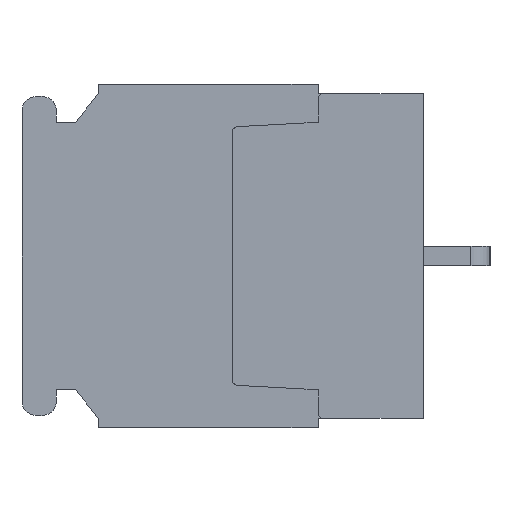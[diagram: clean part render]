
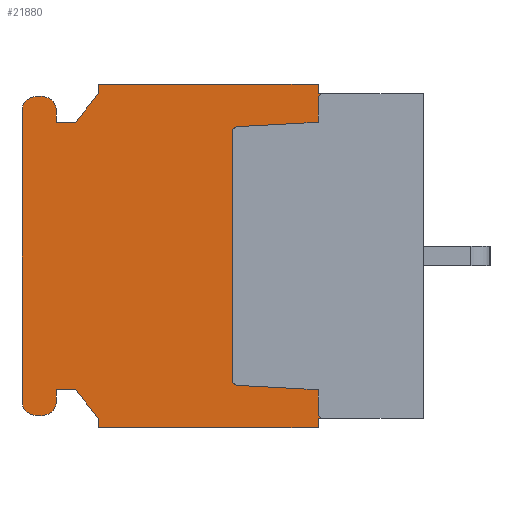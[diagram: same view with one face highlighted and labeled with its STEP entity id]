
A CAD part, left-side view. The second image highlights one B-rep face of the part: STEP entity #21880.
In plain terms, the highlighted planar face has unit normal (-1, 0, 0).
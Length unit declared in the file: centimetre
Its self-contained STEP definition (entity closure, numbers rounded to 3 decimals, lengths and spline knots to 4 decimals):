
#684=VECTOR('',#22796,1.);
#770=VECTOR('',#22884,1.);
#1838=VECTOR('',#25641,1.);
#1840=VECTOR('',#25644,1.);
#1842=VECTOR('',#25647,1.);
#1843=VECTOR('',#25649,1.);
#1845=VECTOR('',#25652,1.);
#1847=VECTOR('',#25655,1.);
#1849=VECTOR('',#25658,1.);
#1851=VECTOR('',#25661,1.);
#1853=VECTOR('',#25664,1.);
#1856=VECTOR('',#25672,1.);
#1859=VECTOR('',#25680,1.);
#1862=VECTOR('',#25688,1.);
#1865=VECTOR('',#25696,1.);
#1867=VECTOR('',#25699,1.);
#1869=VECTOR('',#25702,1.);
#2361=VECTOR('',#26440,1.);
#2362=VECTOR('',#26441,1.);
#2363=VECTOR('',#26444,1.);
#2364=VECTOR('',#26447,1.);
#2365=VECTOR('',#26448,1.);
#2896=LINE('',#27696,#684);
#2982=LINE('',#27867,#770);
#4050=LINE('',#31378,#1838);
#4052=LINE('',#31382,#1840);
#4054=LINE('',#31386,#1842);
#4055=LINE('',#31388,#1843);
#4057=LINE('',#31392,#1845);
#4059=LINE('',#31396,#1847);
#4061=LINE('',#31400,#1849);
#4063=LINE('',#31404,#1851);
#4065=LINE('',#31408,#1853);
#4068=LINE('',#31416,#1856);
#4071=LINE('',#31424,#1859);
#4074=LINE('',#31432,#1862);
#4077=LINE('',#31440,#1865);
#4079=LINE('',#31444,#1867);
#4081=LINE('',#31448,#1869);
#4573=LINE('',#33175,#2361);
#4574=LINE('',#33177,#2362);
#4575=LINE('',#33181,#2363);
#4576=LINE('',#33185,#2364);
#4577=LINE('',#33187,#2365);
#5658=PLANE('',#36264);
#6252=CIRCLE('',#36045,0.075);
#6253=CIRCLE('',#36048,0.075);
#6254=CIRCLE('',#36051,0.075);
#6255=CIRCLE('',#36054,0.075);
#6278=CIRCLE('',#36265,0.03);
#6279=CIRCLE('',#36266,0.03);
#6280=CIRCLE('',#36267,0.03);
#6281=CIRCLE('',#36268,0.03);
#6557=VERTEX_POINT('',#27695);
#6558=VERTEX_POINT('',#27697);
#6640=VERTEX_POINT('',#27866);
#6641=VERTEX_POINT('',#27868);
#7650=VERTEX_POINT('',#31377);
#7651=VERTEX_POINT('',#31379);
#7652=VERTEX_POINT('',#31383);
#7653=VERTEX_POINT('',#31389);
#7654=VERTEX_POINT('',#31393);
#7655=VERTEX_POINT('',#31397);
#7656=VERTEX_POINT('',#31401);
#7657=VERTEX_POINT('',#31405);
#7658=VERTEX_POINT('',#31409);
#7659=VERTEX_POINT('',#31413);
#7660=VERTEX_POINT('',#31417);
#7661=VERTEX_POINT('',#31421);
#7662=VERTEX_POINT('',#31425);
#7663=VERTEX_POINT('',#31429);
#7664=VERTEX_POINT('',#31433);
#7665=VERTEX_POINT('',#31437);
#7666=VERTEX_POINT('',#31441);
#7667=VERTEX_POINT('',#31445);
#8070=VERTEX_POINT('',#33174);
#8071=VERTEX_POINT('',#33176);
#8072=VERTEX_POINT('',#33178);
#8073=VERTEX_POINT('',#33180);
#8074=VERTEX_POINT('',#33182);
#8075=VERTEX_POINT('',#33184);
#8076=VERTEX_POINT('',#33186);
#8077=VERTEX_POINT('',#33188);
#8854=EDGE_CURVE('',#6558,#6557,#2896,.T.);
#8940=EDGE_CURVE('',#6641,#6640,#2982,.T.);
#10552=EDGE_CURVE('',#7651,#7650,#4050,.T.);
#10554=EDGE_CURVE('',#7652,#7651,#4052,.T.);
#10556=EDGE_CURVE('',#6557,#7652,#4054,.T.);
#10557=EDGE_CURVE('',#7653,#6641,#4055,.T.);
#10559=EDGE_CURVE('',#7654,#7653,#4057,.T.);
#10561=EDGE_CURVE('',#7655,#7654,#4059,.T.);
#10563=EDGE_CURVE('',#7656,#7655,#4061,.T.);
#10565=EDGE_CURVE('',#7657,#7656,#4063,.T.);
#10567=EDGE_CURVE('',#7658,#7657,#4065,.T.);
#10569=EDGE_CURVE('',#7658,#7659,#6252,.T.);
#10571=EDGE_CURVE('',#7660,#7659,#4068,.T.);
#10573=EDGE_CURVE('',#7660,#7661,#6253,.T.);
#10575=EDGE_CURVE('',#7662,#7661,#4071,.T.);
#10577=EDGE_CURVE('',#7662,#7663,#6254,.T.);
#10579=EDGE_CURVE('',#7664,#7663,#4074,.T.);
#10581=EDGE_CURVE('',#7664,#7665,#6255,.T.);
#10583=EDGE_CURVE('',#7666,#7665,#4077,.T.);
#10585=EDGE_CURVE('',#7667,#7666,#4079,.T.);
#10587=EDGE_CURVE('',#7650,#7667,#4081,.T.);
#11211=EDGE_CURVE('',#6640,#8070,#6278,.T.);
#11212=EDGE_CURVE('',#8070,#8071,#4573,.T.);
#11213=EDGE_CURVE('',#8071,#8072,#4574,.T.);
#11214=EDGE_CURVE('',#8072,#8073,#6279,.T.);
#11215=EDGE_CURVE('',#8073,#8074,#4575,.T.);
#11216=EDGE_CURVE('',#8074,#8075,#6280,.T.);
#11217=EDGE_CURVE('',#8075,#8076,#4576,.T.);
#11218=EDGE_CURVE('',#8076,#8077,#4577,.T.);
#11219=EDGE_CURVE('',#8077,#6558,#6281,.T.);
#17028=ORIENTED_EDGE('',*,*,#11211,.T.);
#17029=ORIENTED_EDGE('',*,*,#11212,.T.);
#17030=ORIENTED_EDGE('',*,*,#11213,.T.);
#17031=ORIENTED_EDGE('',*,*,#11214,.T.);
#17032=ORIENTED_EDGE('',*,*,#11215,.T.);
#17033=ORIENTED_EDGE('',*,*,#11216,.T.);
#17034=ORIENTED_EDGE('',*,*,#11217,.T.);
#17035=ORIENTED_EDGE('',*,*,#11218,.T.);
#17036=ORIENTED_EDGE('',*,*,#11219,.T.);
#17037=ORIENTED_EDGE('',*,*,#8854,.T.);
#17038=ORIENTED_EDGE('',*,*,#10556,.T.);
#17039=ORIENTED_EDGE('',*,*,#10554,.T.);
#17040=ORIENTED_EDGE('',*,*,#10552,.T.);
#17041=ORIENTED_EDGE('',*,*,#10587,.T.);
#17042=ORIENTED_EDGE('',*,*,#10585,.T.);
#17043=ORIENTED_EDGE('',*,*,#10583,.T.);
#17044=ORIENTED_EDGE('',*,*,#10581,.F.);
#17045=ORIENTED_EDGE('',*,*,#10579,.T.);
#17046=ORIENTED_EDGE('',*,*,#10577,.F.);
#17047=ORIENTED_EDGE('',*,*,#10575,.T.);
#17048=ORIENTED_EDGE('',*,*,#10573,.F.);
#17049=ORIENTED_EDGE('',*,*,#10571,.T.);
#17050=ORIENTED_EDGE('',*,*,#10569,.F.);
#17051=ORIENTED_EDGE('',*,*,#10567,.T.);
#17052=ORIENTED_EDGE('',*,*,#10565,.T.);
#17053=ORIENTED_EDGE('',*,*,#10563,.T.);
#17054=ORIENTED_EDGE('',*,*,#10561,.T.);
#17055=ORIENTED_EDGE('',*,*,#10559,.T.);
#17056=ORIENTED_EDGE('',*,*,#10557,.T.);
#17057=ORIENTED_EDGE('',*,*,#8940,.T.);
#19240=EDGE_LOOP('',(#17028,#17029,#17030,#17031,#17032,#17033,#17034,#17035,
#17036,#17037,#17038,#17039,#17040,#17041,#17042,#17043,#17044,#17045,#17046,
#17047,#17048,#17049,#17050,#17051,#17052,#17053,#17054,#17055,#17056,#17057));
#20610=FACE_BOUND('',#19240,.T.);
#21880=ADVANCED_FACE('',(#20610),#5658,.F.);
#22796=DIRECTION('',(0.,1.,0.));
#22884=DIRECTION('',(0.,-1.,0.));
#25641=DIRECTION('',(0.,0.,-1.));
#25644=DIRECTION('',(0.,1.,0.));
#25647=DIRECTION('',(0.,0.,1.));
#25649=DIRECTION('',(0.,0.,1.));
#25652=DIRECTION('',(0.,-1.,0.));
#25655=DIRECTION('',(0.,0.,-1.));
#25658=DIRECTION('',(0.,-0.625,-0.781));
#25661=DIRECTION('',(0.,-1.,0.));
#25664=DIRECTION('',(0.,0.,1.));
#25668=DIRECTION('',(1.,0.,0.));
#25669=DIRECTION('',(0.,0.,-0.075));
#25672=DIRECTION('',(0.,-1.,0.));
#25676=DIRECTION('',(1.,0.,0.));
#25677=DIRECTION('',(0.,0.,-0.075));
#25680=DIRECTION('',(0.,0.,-1.));
#25684=DIRECTION('',(1.,0.,0.));
#25685=DIRECTION('',(0.,0.,-0.075));
#25688=DIRECTION('',(0.,1.,0.));
#25692=DIRECTION('',(1.,0.,0.));
#25693=DIRECTION('',(0.,0.,-0.075));
#25696=DIRECTION('',(0.,0.,1.));
#25699=DIRECTION('',(0.,1.,0.));
#25702=DIRECTION('',(0.,0.625,-0.781));
#26437=DIRECTION('',(1.,0.,0.));
#26438=DIRECTION('',(1.,0.,0.));
#26439=DIRECTION('',(0.,0.,-0.03));
#26440=DIRECTION('',(0.,0.,1.));
#26441=DIRECTION('',(0.,0.999,0.054));
#26442=DIRECTION('',(1.,0.,0.));
#26443=DIRECTION('',(0.,0.,-0.03));
#26444=DIRECTION('',(0.,0.,1.));
#26445=DIRECTION('',(1.,0.,0.));
#26446=DIRECTION('',(0.,0.,-0.03));
#26447=DIRECTION('',(0.,-0.999,0.054));
#26448=DIRECTION('',(0.,0.,1.));
#26449=DIRECTION('',(1.,0.,0.));
#26450=DIRECTION('',(0.,0.,-0.03));
#27695=CARTESIAN_POINT('',(-1.3,0.55,0.85));
#27696=CARTESIAN_POINT('',(-1.3,0.,0.85));
#27697=CARTESIAN_POINT('',(-1.3,0.52,0.85));
#27866=CARTESIAN_POINT('',(-1.3,0.52,-0.85));
#27867=CARTESIAN_POINT('',(-1.3,0.55,-0.85));
#27868=CARTESIAN_POINT('',(-1.3,0.55,-0.85));
#31377=CARTESIAN_POINT('',(-1.3,1.7,0.85));
#31378=CARTESIAN_POINT('',(-1.3,1.7,0.9));
#31379=CARTESIAN_POINT('',(-1.3,1.7,0.9));
#31382=CARTESIAN_POINT('',(-1.3,0.55,0.9));
#31383=CARTESIAN_POINT('',(-1.3,0.55,0.9));
#31386=CARTESIAN_POINT('',(-1.3,0.55,0.85));
#31388=CARTESIAN_POINT('',(-1.3,0.55,-0.9));
#31389=CARTESIAN_POINT('',(-1.3,0.55,-0.9));
#31392=CARTESIAN_POINT('',(-1.3,1.7,-0.9));
#31393=CARTESIAN_POINT('',(-1.3,1.7,-0.9));
#31396=CARTESIAN_POINT('',(-1.3,1.7,-0.85));
#31397=CARTESIAN_POINT('',(-1.3,1.7,-0.85));
#31400=CARTESIAN_POINT('',(-1.3,1.82,-0.7));
#31401=CARTESIAN_POINT('',(-1.3,1.82,-0.7));
#31404=CARTESIAN_POINT('',(-1.3,1.92,-0.7));
#31405=CARTESIAN_POINT('',(-1.3,1.92,-0.7));
#31408=CARTESIAN_POINT('',(-1.3,1.92,-0.76));
#31409=CARTESIAN_POINT('',(-1.3,1.92,-0.76));
#31412=CARTESIAN_POINT('',(-1.3,1.995,-0.76));
#31413=CARTESIAN_POINT('',(-1.3,1.995,-0.835));
#31416=CARTESIAN_POINT('',(-1.3,2.025,-0.835));
#31417=CARTESIAN_POINT('',(-1.3,2.025,-0.835));
#31420=CARTESIAN_POINT('',(-1.3,2.025,-0.76));
#31421=CARTESIAN_POINT('',(-1.3,2.1,-0.76));
#31424=CARTESIAN_POINT('',(-1.3,2.1,0.76));
#31425=CARTESIAN_POINT('',(-1.3,2.1,0.76));
#31428=CARTESIAN_POINT('',(-1.3,2.025,0.76));
#31429=CARTESIAN_POINT('',(-1.3,2.025,0.835));
#31432=CARTESIAN_POINT('',(-1.3,1.995,0.835));
#31433=CARTESIAN_POINT('',(-1.3,1.995,0.835));
#31436=CARTESIAN_POINT('',(-1.3,1.995,0.76));
#31437=CARTESIAN_POINT('',(-1.3,1.92,0.76));
#31440=CARTESIAN_POINT('',(-1.3,1.92,0.7));
#31441=CARTESIAN_POINT('',(-1.3,1.92,0.7));
#31444=CARTESIAN_POINT('',(-1.3,1.82,0.7));
#31445=CARTESIAN_POINT('',(-1.3,1.82,0.7));
#31448=CARTESIAN_POINT('',(-1.3,1.7,0.85));
#33172=CARTESIAN_POINT('',(-1.3,1.0745,0.));
#33173=CARTESIAN_POINT('',(-1.3,0.52,-0.82));
#33174=CARTESIAN_POINT('',(-1.3,0.55,-0.82));
#33175=CARTESIAN_POINT('',(-1.3,0.55,-0.38));
#33176=CARTESIAN_POINT('',(-1.3,0.55,-0.7));
#33177=CARTESIAN_POINT('',(-1.3,0.9358,-0.6792));
#33178=CARTESIAN_POINT('',(-1.3,0.9718,-0.6773));
#33179=CARTESIAN_POINT('',(-1.3,0.97,-0.6473));
#33180=CARTESIAN_POINT('',(-1.3,1.,-0.6473));
#33181=CARTESIAN_POINT('',(-1.3,1.,0.));
#33182=CARTESIAN_POINT('',(-1.3,1.,0.6473));
#33183=CARTESIAN_POINT('',(-1.3,0.97,0.6473));
#33184=CARTESIAN_POINT('',(-1.3,0.9718,0.6773));
#33185=CARTESIAN_POINT('',(-1.3,0.9358,0.6792));
#33186=CARTESIAN_POINT('',(-1.3,0.55,0.7));
#33187=CARTESIAN_POINT('',(-1.3,0.55,0.38));
#33188=CARTESIAN_POINT('',(-1.3,0.55,0.82));
#33189=CARTESIAN_POINT('',(-1.3,0.52,0.82));
#36045=AXIS2_PLACEMENT_3D('',#31412,#25668,#25669);
#36048=AXIS2_PLACEMENT_3D('',#31420,#25676,#25677);
#36051=AXIS2_PLACEMENT_3D('',#31428,#25684,#25685);
#36054=AXIS2_PLACEMENT_3D('',#31436,#25692,#25693);
#36264=AXIS2_PLACEMENT_3D('',#33172,#26437,$);
#36265=AXIS2_PLACEMENT_3D('',#33173,#26438,#26439);
#36266=AXIS2_PLACEMENT_3D('',#33179,#26442,#26443);
#36267=AXIS2_PLACEMENT_3D('',#33183,#26445,#26446);
#36268=AXIS2_PLACEMENT_3D('',#33189,#26449,#26450);
